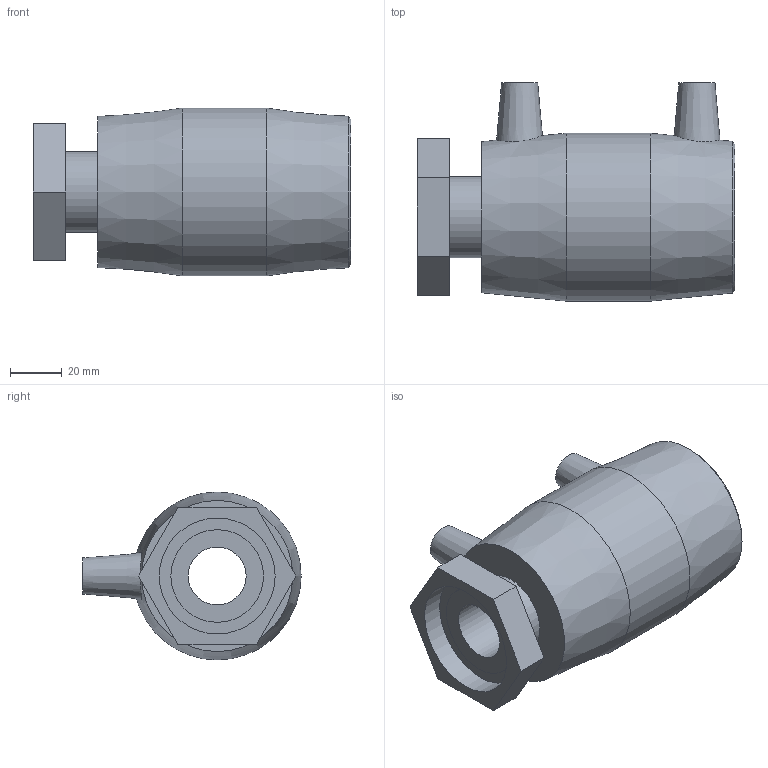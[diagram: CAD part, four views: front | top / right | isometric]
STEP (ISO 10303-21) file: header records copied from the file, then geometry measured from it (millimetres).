
FILE_DESCRIPTION(/* description */ ('PLASSON FEMALE FREE NUT TRANSITION COUPLER 50- 1½"'),/* implementation_level */ '2;1');
FILE_NAME(/* name */ '494104050015.stp',/* time_stamp */ '2026-05-12T11:34:39+03:00',/* author */ ('KIM'),/* organization */ (''),/* preprocessor_version */ 'ST-DEVELOPER v20.1',/* originating_system */ 'Autodesk Inventor 2026',/* authorisation */ '');
FILE_SCHEMA (('AUTOMOTIVE_DESIGN { 1 0 10303 214 3 1 1 }'));
Length unit declared in the file: millimetre
Products named in the file (1): 494104050015
Bounding box: 123 x 84.5 x 65 mm (x, y, z)
Volume: 154571.6 mm3; surface area: 50982.6 mm2
Topology: 1 solids, 1 shells, 36 faces, 66 edges, 44 vertices
Faces by surface type: plane 20, cylinder 11, cone 5
Full cylindrical faces by diameter (mm): 4 x2, 10 x2, 22.422 x1, 31.392 x1, 35.876 x1, 44.845 x1, 47.5 x1, 50 x1, 65 x1
Entity records: 1005 total; most frequent: CARTESIAN_POINT 215, DIRECTION 164, ORIENTED_EDGE 132, EDGE_CURVE 66, AXIS2_PLACEMENT_3D 65, EDGE_LOOP 50, VERTEX_POINT 44, FACE_OUTER_BOUND 36
